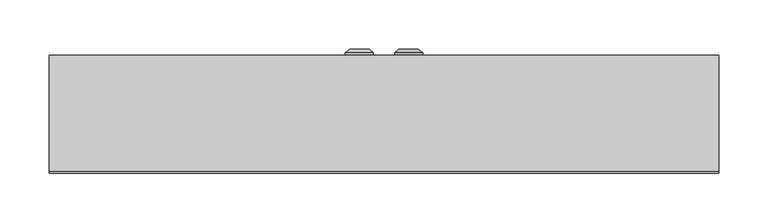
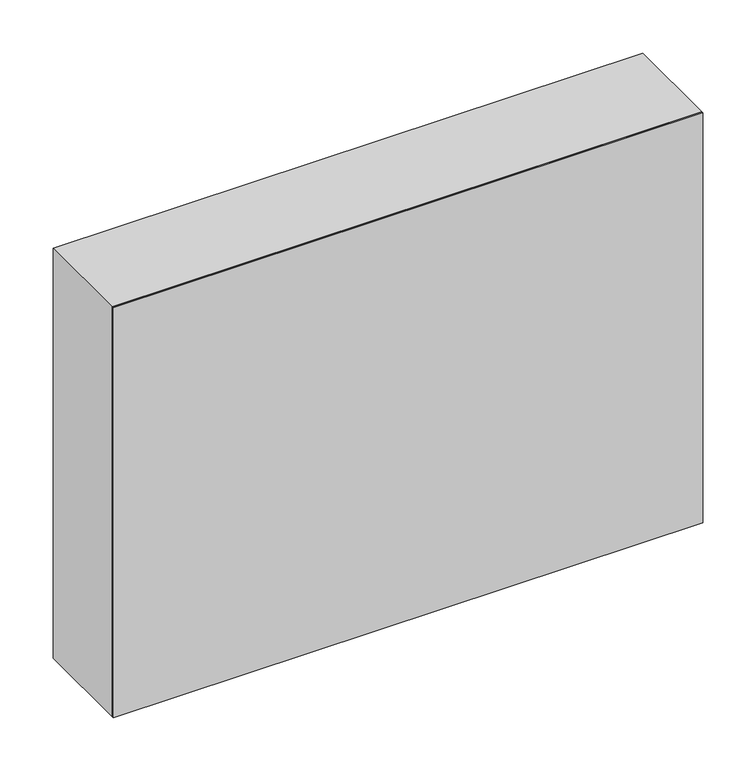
"""IFC4 building model written with IfcOpenShell, lengths in millimetres: proxy geometry, ЩРН_90 : ЩРН-90."""

from ifc_helpers import new_model, si_unit, frame, origin, origin_with_axes, place, context, project, spatial, polyline, circle_curve, outline, extrude, source, transform, mapped, element, save
from ifc_brep_helpers import plane_surface, cylinder_surface, revolved_surface, advanced_brep


def electrical_equipment_2ab7c5df(model_context):
    return source(origin(), model_context, "Body", "SolidModel", [
        advanced_brep(
        [(-25.0, 120.0, 265.0), (-39.330127, 120.0, 265.0), (-10.669873, 120.0, 265.0), (-39.330127, 122.366592, 265.0), (-10.669873, 122.366592, 265.0), (-35.0, 126.0, 265.0), (-15.0, 126.0, 265.0), (-26.8919529, 126.0, 265.0), (-23.1080471, 126.0, 265.0), (-26.8919529, 124.9822294, 265.0), (-23.1080471, 124.9822294, 265.0), (-25.0, 124.9822294, 265.0)],
        [
            (0, 1),
            (1, 2, circle_curve(frame((-25.0, 120.0, 265.0), z_axis=(0.0, -1.0, 0.0), x_axis=(-1.0, 0.0, 0.0)), 14.330127)),
            (2, 0),
            (2, 1, circle_curve(frame((-25.0, 120.0, 265.0), z_axis=(0.0, -1.0, 0.0), x_axis=(-1.0, 0.0, 0.0)), 14.330127)),
            (1, 3),
            (3, 4, circle_curve(frame((-25.0, 122.366592, 265.0), z_axis=(0.0, -1.0, 0.0), x_axis=(-1.0, 0.0, 0.0)), 14.330127)),
            (4, 2),
            (4, 3, circle_curve(frame((-25.0, 122.366592, 265.0), z_axis=(0.0, -1.0, 0.0), x_axis=(-1.0, 0.0, 0.0)), 14.330127)),
            (3, 5),
            (5, 6, circle_curve(frame((-25.0, 126.0, 265.0), z_axis=(0.0, -1.0, 0.0), x_axis=(-1.0, 0.0, 0.0)), 10.0)),
            (6, 4),
            (6, 5, circle_curve(frame((-25.0, 126.0, 265.0), z_axis=(0.0, -1.0, 0.0), x_axis=(-1.0, 0.0, 0.0)), 10.0)),
            (5, 7),
            (7, 8, circle_curve(frame((-25.0, 126.0, 265.0), z_axis=(0.0, -1.0, 0.0), x_axis=(-1.0, 0.0, 0.0)), 1.8919529)),
            (8, 6),
            (8, 7, circle_curve(frame((-25.0, 126.0, 265.0), z_axis=(0.0, -1.0, 0.0), x_axis=(-1.0, 0.0, 0.0)), 1.8919529)),
            (7, 9),
            (9, 10, circle_curve(frame((-25.0, 124.9822294, 265.0), z_axis=(0.0, -1.0, 0.0), x_axis=(-1.0, 0.0, 0.0)), 1.8919529)),
            (10, 8),
            (10, 9, circle_curve(frame((-25.0, 124.9822294, 265.0), z_axis=(0.0, -1.0, 0.0), x_axis=(-1.0, 0.0, 0.0)), 1.8919529)),
            (9, 11),
            (11, 10),
        ],
        [
            plane_surface(frame((-25.0, 120.0, 265.0), z_axis=(0.0, -1.0, 0.0), x_axis=(-1.0, 0.0, 0.0))),
            cylinder_surface(frame((-25.0, 133.1348851, 265.0), z_axis=(0.0, -1.0, 0.0), x_axis=(-1.0, 0.0, 0.0)), 14.330127),
            revolved_surface(polyline([(-35.0, 126.0, 265.0), (-39.330127, 122.366592, 265.0)]), (-25.0, 133.1348851, 265.0), (0.0, -1.0, 0.0)),
            plane_surface(frame((-25.0, 126.0, 265.0), z_axis=(0.0, 1.0, 0.0), x_axis=(-1.0, 0.0, 0.0))),
            revolved_surface(polyline([(-26.8919529, 124.9822294, 265.0), (-26.8919529, 126.0, 265.0)]), (-25.0, 133.1348851, 265.0), (0.0, -1.0, 0.0)),
            plane_surface(frame((-25.0, 124.9822294, 265.0), z_axis=(0.0, 1.0, 0.0), x_axis=(-1.0, 0.0, 0.0))),
        ],
        [
            (0, [[1, 2, 3]]),
            (0, [[-3, 4, -1]]),
            (1, [[-2, 5, 6, 7]]),
            (1, [[-4, -7, 8, -5]]),
            (2, [[-6, 9, 10, 11]]),
            (2, [[-8, -11, 12, -9]]),
            (3, [[-10, 13, 14, 15]]),
            (3, [[-12, -15, 16, -13]]),
            (4, [[-14, 17, 18, 19]]),
            (4, [[-16, -19, 20, -17]]),
            (5, [[-18, 21, 22]]),
            (5, [[-20, -22, -21]]),
        ],
    ),
        advanced_brep(
        [(10.669873, 120.0, 265.0), (39.330127, 120.0, 265.0), (25.0, 120.0, 265.0), (10.669873, 122.366592, 265.0), (39.330127, 122.366592, 265.0), (15.0, 126.0, 265.0), (35.0, 126.0, 265.0), (23.1080471, 126.0, 265.0), (26.8919529, 126.0, 265.0), (23.1080471, 124.9822294, 265.0), (26.8919529, 124.9822294, 265.0), (25.0, 124.9822294, 265.0)],
        [
            (0, 1, circle_curve(frame((25.0, 120.0, 265.0), z_axis=(0.0, -1.0, 0.0), x_axis=(1.0, 0.0, 0.0)), 14.330127)),
            (1, 2),
            (2, 0),
            (1, 0, circle_curve(frame((25.0, 120.0, 265.0), z_axis=(0.0, -1.0, 0.0), x_axis=(1.0, 0.0, 0.0)), 14.330127)),
            (3, 4, circle_curve(frame((25.0, 122.366592, 265.0), z_axis=(0.0, -1.0, 0.0), x_axis=(1.0, 0.0, 0.0)), 14.330127)),
            (4, 1),
            (0, 3),
            (4, 3, circle_curve(frame((25.0, 122.366592, 265.0), z_axis=(0.0, -1.0, 0.0), x_axis=(1.0, 0.0, 0.0)), 14.330127)),
            (5, 6, circle_curve(frame((25.0, 126.0, 265.0), z_axis=(0.0, -1.0, 0.0), x_axis=(1.0, 0.0, 0.0)), 10.0)),
            (6, 4),
            (3, 5),
            (6, 5, circle_curve(frame((25.0, 126.0, 265.0), z_axis=(0.0, -1.0, 0.0), x_axis=(1.0, 0.0, 0.0)), 10.0)),
            (7, 8, circle_curve(frame((25.0, 126.0, 265.0), z_axis=(0.0, -1.0, 0.0), x_axis=(1.0, 0.0, 0.0)), 1.8919529)),
            (8, 6),
            (5, 7),
            (8, 7, circle_curve(frame((25.0, 126.0, 265.0), z_axis=(0.0, -1.0, 0.0), x_axis=(1.0, 0.0, 0.0)), 1.8919529)),
            (9, 10, circle_curve(frame((25.0, 124.9822294, 265.0), z_axis=(0.0, -1.0, 0.0), x_axis=(1.0, 0.0, 0.0)), 1.8919529)),
            (10, 8),
            (7, 9),
            (10, 9, circle_curve(frame((25.0, 124.9822294, 265.0), z_axis=(0.0, -1.0, 0.0), x_axis=(1.0, 0.0, 0.0)), 1.8919529)),
            (11, 10),
            (9, 11),
        ],
        [
            plane_surface(frame((25.0, 120.0, 265.0), z_axis=(0.0, -1.0, 0.0), x_axis=(1.0, 0.0, 0.0))),
            cylinder_surface(frame((25.0, 133.1348851, 265.0), z_axis=(0.0, 1.0, 0.0), x_axis=(1.0, 0.0, 0.0)), 14.330127),
            revolved_surface(polyline([(39.330127, 122.366592, 265.0), (35.0, 126.0, 265.0)]), (25.0, 133.1348851, 265.0), (0.0, 1.0, 0.0)),
            plane_surface(frame((25.0, 126.0, 265.0), z_axis=(0.0, 1.0, 0.0), x_axis=(1.0, 0.0, 0.0))),
            revolved_surface(polyline([(26.8919529, 126.0, 265.0), (26.8919529, 124.9822294, 265.0)]), (25.0, 133.1348851, 265.0), (0.0, 1.0, 0.0)),
            plane_surface(frame((25.0, 124.9822294, 265.0), z_axis=(0.0, 1.0, 0.0), x_axis=(1.0, 0.0, 0.0))),
        ],
        [
            (0, [[1, 2, 3]]),
            (0, [[4, -3, -2]]),
            (1, [[5, 6, -1, 7]]),
            (1, [[8, -7, -4, -6]]),
            (2, [[9, 10, -5, 11]]),
            (2, [[12, -11, -8, -10]]),
            (3, [[13, 14, -9, 15]]),
            (3, [[16, -15, -12, -14]]),
            (4, [[17, 18, -13, 19]]),
            (4, [[20, -19, -16, -18]]),
            (5, [[21, -17, 22]]),
            (5, [[-22, -20, -21]]),
        ],
    ),
        extrude(outline(polyline([(-1.5, 95.0), (-334.0, 95.0), (-334.0, 120.0), (-1.5, 120.0), (-1.5, 95.0)])), frame((0.0, 0.0, 6.0), z_axis=(0.0, 0.0, 1.0), x_axis=(1.0, 0.0, 0.0)), (0.0, 0.0, 1.0), 488.0),
        extrude(outline(polyline([(334.0, 95.0), (1.5, 95.0), (1.5, 120.0), (334.0, 120.0), (334.0, 95.0)])), frame((0.0, 0.0, 6.0), z_axis=(0.0, 0.0, 1.0), x_axis=(1.0, 0.0, 0.0)), (0.0, 0.0, 1.0), 488.0),
        extrude(outline(polyline([(500.0, -340.0033905), (0.0, -340.0033905), (0.0, 339.9966095), (500.0, 339.9966095), (500.0, -340.0033905)]), holes=[polyline([(495.0, -335.0), (495.0, 335.0), (5.0, 335.0), (5.0, -335.0), (495.0, -335.0)])]), frame((0.0, 2.0, 0.0), z_axis=(0.0, 1.0, 0.0), x_axis=(0.0, 0.0, 1.0)), (0.0, 0.0, 1.0), 118.0),
        extrude(outline(polyline([(340.0, 0.0), (-340.0, 0.0), (-340.0, 2.0), (340.0, 2.0), (340.0, 0.0)])), origin_with_axes(), (0.0, 0.0, 1.0), 500.0),
    ])


if __name__ == "__main__":
    model = new_model("IFC4")
    model_context = context("Model", 3, world=origin())
    ifc_project = project(units=[si_unit("LENGTHUNIT", "METRE", prefix="MILLI")], contexts=[model_context])
    site = spatial("IfcSite", under=ifc_project)
    building = spatial("IfcBuilding", under=site)
    placement = place(None, origin())
    electrical_equipment_shape = electrical_equipment_2ab7c5df(model_context)
    element("IfcBuildingElementProxy", 1, Name="ЩРН_90 : ЩРН-90", ObjectType="ЩРН_90 : ЩРН-90", at=placement, inside=building, context=model_context, shape_type="MappedRepresentation", body=[
        mapped(electrical_equipment_shape, transform((0.0, 0.0, 0.0), x_axis=(1.0, 0.0, 0.0), y_axis=(0.0, 1.0, 0.0), z_axis=(0.0, 0.0, 1.0))),
    ])
    save(model, "model.ifc")
